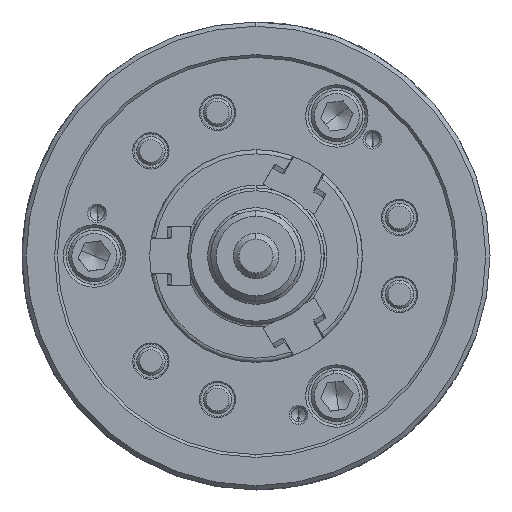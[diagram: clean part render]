
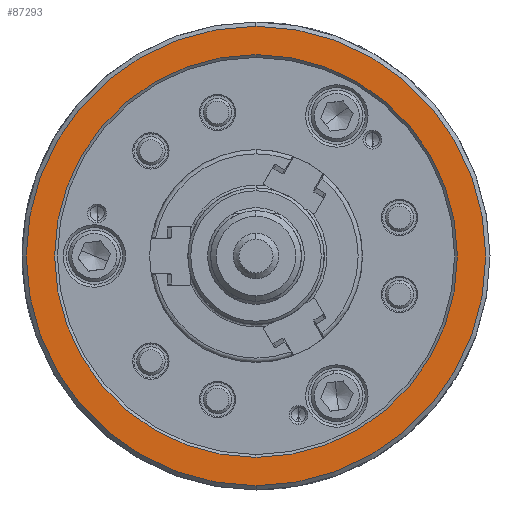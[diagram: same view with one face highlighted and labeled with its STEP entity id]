
A CAD part, left-side view. The second image highlights one B-rep face of the part: STEP entity #87293.
In plain terms, the highlighted planar face has unit normal (-1, 0, 0).
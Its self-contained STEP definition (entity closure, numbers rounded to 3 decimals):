
#182 = CARTESIAN_POINT ( 'NONE',  ( -74., 0., -71. ) ) ;
#953 = ORIENTED_EDGE ( 'NONE', *, *, #19768, .T. ) ;
#2170 = CARTESIAN_POINT ( 'NONE',  ( -74., 0., 0. ) ) ;
#8057 = DIRECTION ( 'NONE',  ( 1., 0., 0. ) ) ;
#15007 = DIRECTION ( 'NONE',  ( 1., 0., 0. ) ) ;
#16990 = AXIS2_PLACEMENT_3D ( 'NONE', #26394, #54049, #81641 ) ;
#18409 = CARTESIAN_POINT ( 'NONE',  ( -74., 0., 0. ) ) ;
#19161 = FACE_OUTER_BOUND ( 'NONE', #31236, .T. ) ;
#19768 = EDGE_CURVE ( 'NONE', #82458, #21989, #23115, .T. ) ;
#20696 = DIRECTION ( 'NONE',  ( 0., 0., -1. ) ) ;
#21455 = EDGE_CURVE ( 'NONE', #70753, #27330, #66209, .T. ) ;
#21602 = CARTESIAN_POINT ( 'NONE',  ( -74., 0., 0. ) ) ;
#21989 = VERTEX_POINT ( 'NONE', #37756 ) ;
#23115 = CIRCLE ( 'NONE', #73717, 71. ) ;
#23524 = ORIENTED_EDGE ( 'NONE', *, *, #45855, .T. ) ;
#25174 = DIRECTION ( 'NONE',  ( 0., 0., -1. ) ) ;
#25755 = ORIENTED_EDGE ( 'NONE', *, *, #21455, .F. ) ;
#26394 = CARTESIAN_POINT ( 'NONE',  ( -74., -81., 0. ) ) ;
#27330 = VERTEX_POINT ( 'NONE', #89341 ) ;
#31236 = EDGE_LOOP ( 'NONE', ( #25755, #33855 ) ) ;
#33855 = ORIENTED_EDGE ( 'NONE', *, *, #69627, .F. ) ;
#34924 = DIRECTION ( 'NONE',  ( 0., 0., -1. ) ) ;
#35153 = DIRECTION ( 'NONE',  ( 0., 0., -1. ) ) ;
#37756 = CARTESIAN_POINT ( 'NONE',  ( -74., 0., 71. ) ) ;
#41154 = EDGE_LOOP ( 'NONE', ( #23524, #953 ) ) ;
#45855 = EDGE_CURVE ( 'NONE', #21989, #82458, #67269, .T. ) ;
#48471 = AXIS2_PLACEMENT_3D ( 'NONE', #18409, #60544, #25174 ) ;
#48966 = CARTESIAN_POINT ( 'NONE',  ( -74., 0., 0. ) ) ;
#52700 = PLANE ( 'NONE',  #16990 ) ;
#54049 = DIRECTION ( 'NONE',  ( 1., 0., 0. ) ) ;
#58734 = CARTESIAN_POINT ( 'NONE',  ( -74., 0., -81. ) ) ;
#60021 = AXIS2_PLACEMENT_3D ( 'NONE', #2170, #83174, #20696 ) ;
#60544 = DIRECTION ( 'NONE',  ( 1., 0., 0. ) ) ;
#66209 = CIRCLE ( 'NONE', #67699, 81. ) ;
#67269 = CIRCLE ( 'NONE', #48471, 71. ) ;
#67699 = AXIS2_PLACEMENT_3D ( 'NONE', #21602, #8057, #35153 ) ;
#69627 = EDGE_CURVE ( 'NONE', #27330, #70753, #83144, .T. ) ;
#70753 = VERTEX_POINT ( 'NONE', #58734 ) ;
#73717 = AXIS2_PLACEMENT_3D ( 'NONE', #48966, #15007, #34924 ) ;
#81641 = DIRECTION ( 'NONE',  ( 0., 0., -1. ) ) ;
#82458 = VERTEX_POINT ( 'NONE', #182 ) ;
#83144 = CIRCLE ( 'NONE', #60021, 81. ) ;
#83174 = DIRECTION ( 'NONE',  ( 1., 0., 0. ) ) ;
#87293 = ADVANCED_FACE ( 'NONE', ( #19161, #88467 ), #52700, .F. ) ;
#88467 = FACE_BOUND ( 'NONE', #41154, .T. ) ;
#89341 = CARTESIAN_POINT ( 'NONE',  ( -74., 0., 81. ) ) ;
